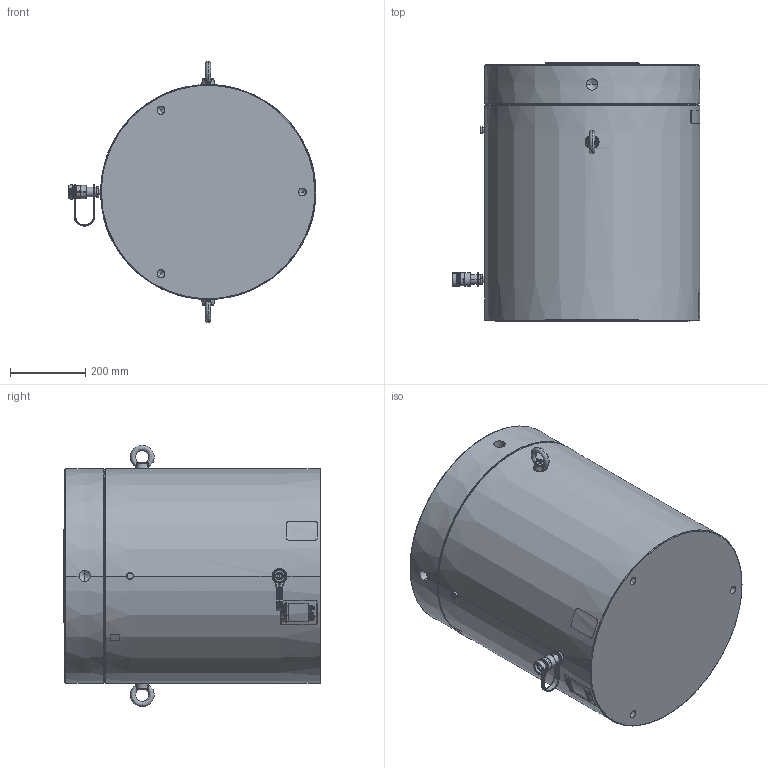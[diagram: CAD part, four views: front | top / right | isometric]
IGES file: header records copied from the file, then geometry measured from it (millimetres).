
Start section:  PTC IGES file: hcl100010.igs
Global section: file name: hcl100010.igs; native system: Creo Parametric by PTC Inc.; preprocessor: 2015290; author: Akhilesh.Subrahmanya; organization: Unknown; date: 20170621.100213; units: millimetre
Bounding box: 656.46 x 684 x 693.77 mm (x, y, z)
Surface area: 2334737.2 mm2 (no closed solid volume)
Topology: 0 solids, 0 shells, 538 faces, 5426 edges, 5408 vertices
Faces by surface type: revolution 351, bspline 185, extrusion 2
